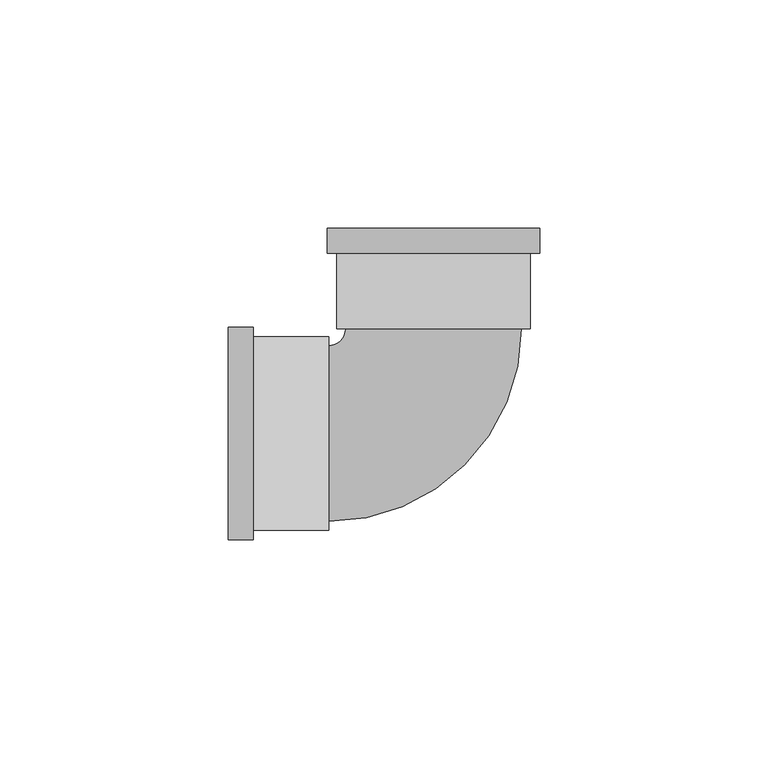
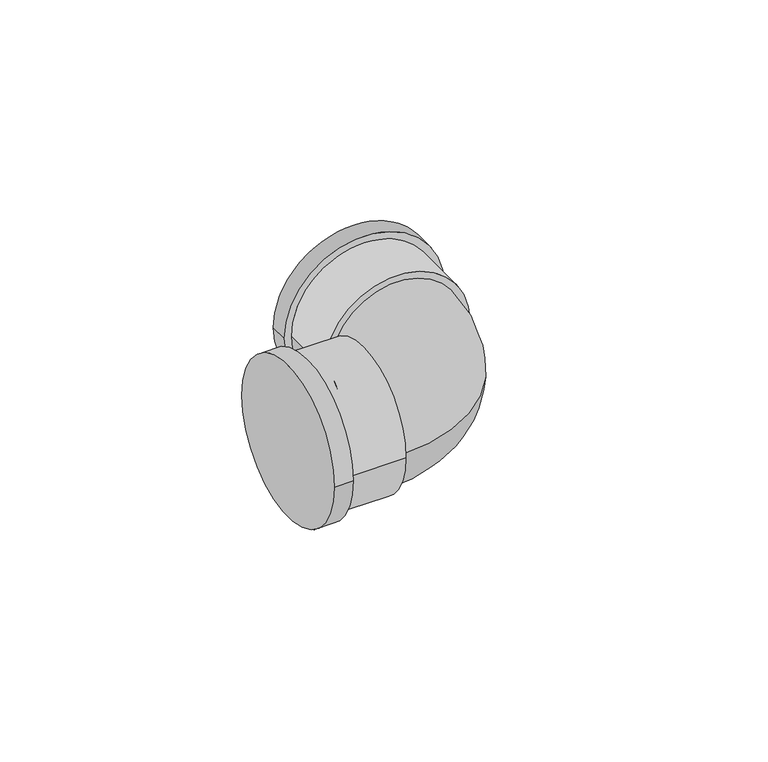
"""IFC4 building model written with IfcOpenShell, lengths in millimetres: pipe fitting geometry, Cotovelo - PVC - CW : Padrão."""

from ifc_helpers import new_model, si_unit, point, frame, origin, place, context, project, spatial, circle_curve, ellipse_curve, trimmed, source, transform, mapped, element, save
from ifc_brep_helpers import plane_surface, cylinder_surface, revolved_surface, advanced_brep


def pipe_fitting_a6c02e45(model_context):
    return source(origin(), model_context, "Body", "AdvancedBrep", [
        advanced_brep(
        [(-45.0010874, -23.2925, 0.0), (-45.0010874, 23.2925, 0.0), (-39.5010874, -23.2925, 0.0), (-39.5010874, 23.2925, 0.0), (-39.5010874, -21.175, 0.0), (-39.5010874, 21.175, 0.0), (-23.0010874, 21.175, 0.0), (-23.0010874, -21.175, 0.0), (-23.0010874, -19.25, 0.0), (-23.0010874, 19.25, 0.0), (-19.2510874, 23.0001773, 0.0), (19.2489125, 23.0019975, 0.0), (21.1739125, 23.0020885, 0.0), (-21.1760874, 23.0000863, 0.0), (-23.2946275, 44.9999861, 0.0), (23.2903724, 45.0021886, 0.0), (21.1731324, 39.5020885, 0.0), (-21.1768675, 39.5000863, 0.0), (-23.2943675, 39.4999862, 0.0), (23.2906324, 39.5021886, 0.0)],
        [
            (0, 1, circle_curve(frame((-45.0010874, 0.0, 0.0), z_axis=(-1.0, 0.0, 0.0), x_axis=(0.0, 1.0, 0.0)), 23.2925)),
            (1, 0, circle_curve(frame((-45.0010874, 0.0, 0.0), z_axis=(-1.0, 0.0, 0.0), x_axis=(0.0, 1.0, 0.0)), 23.2925)),
            (2, 3, circle_curve(frame((-39.5010874, 0.0, 0.0), z_axis=(1.0, 0.0, 0.0), x_axis=(0.0, 1.0, 0.0)), 23.2925)),
            (3, 2, circle_curve(frame((-39.5010874, 0.0, 0.0), z_axis=(1.0, 0.0, 0.0), x_axis=(0.0, 1.0, 0.0)), 23.2925)),
            (4, 5, circle_curve(frame((-39.5010874, 0.0, 0.0), z_axis=(-1.0, 0.0, 0.0), x_axis=(0.0, -1.0, 0.0)), 21.175)),
            (5, 4, circle_curve(frame((-39.5010874, 0.0, 0.0), z_axis=(-1.0, 0.0, 0.0), x_axis=(0.0, -1.0, 0.0)), 21.175)),
            (0, 2),
            (3, 1),
            (6, 7, circle_curve(frame((-23.0010874, 0.0, 0.0), z_axis=(1.0, 0.0, 0.0), x_axis=(0.0, -1.0, 0.0)), 21.175)),
            (7, 6, circle_curve(frame((-23.0010874, 0.0, 0.0), z_axis=(1.0, 0.0, 0.0), x_axis=(0.0, -1.0, 0.0)), 21.175)),
            (8, 9, circle_curve(frame((-23.0010874, 0.0, 0.0), z_axis=(-1.0, 0.0, 0.0), x_axis=(0.0, 1.0, 0.0)), 19.25)),
            (9, 8, circle_curve(frame((-23.0010874, 0.0, 0.0), z_axis=(-1.0, 0.0, 0.0), x_axis=(0.0, 1.0, 0.0)), 19.25)),
            (6, 5),
            (4, 7),
            (10, 9, circle_curve(frame((-23.0010874, 23.0, 0.0), z_axis=(0.0, 0.0, -1.0), x_axis=(0.0, -1.0, 0.0)), 3.75)),
            (8, 11, circle_curve(frame((-23.0010874, 23.0, 0.0), z_axis=(0.0, 0.0, 1.0), x_axis=(0.0, -1.0, 0.0)), 42.25)),
            (11, 10, circle_curve(frame((-0.0010874, 23.0010874, 0.0), z_axis=(4.7278073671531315e-05, -0.9999999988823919, 0.0), x_axis=(-0.9999999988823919, -4.7278073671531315e-05, 0.0)), 19.25)),
            (10, 11, circle_curve(frame((-0.0010874, 23.0010874, 0.0), z_axis=(4.7278073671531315e-05, -0.9999999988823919, 0.0), x_axis=(-0.9999999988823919, -4.7278073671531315e-05, 0.0)), 19.25)),
            (12, 13, circle_curve(frame((-0.0010874, 23.0010874, 0.0), z_axis=(4.7278074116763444e-05, -0.9999999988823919, 0.0), x_axis=(-0.9999999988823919, -4.7278074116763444e-05, 0.0)), 21.175)),
            (13, 12, circle_curve(frame((-0.0010874, 23.0010874, 0.0), z_axis=(4.7278074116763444e-05, -0.9999999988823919, 0.0), x_axis=(-0.9999999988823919, -4.7278074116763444e-05, 0.0)), 21.175)),
            (14, 15, circle_curve(frame((-0.0021276, 45.0010874, 0.0), z_axis=(-4.7278073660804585e-05, 0.9999999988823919, 0.0), x_axis=(0.9999999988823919, 4.7278073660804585e-05, 0.0)), 23.2925)),
            (15, 14, circle_curve(frame((-0.0021276, 45.0010874, 0.0), z_axis=(-4.7278073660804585e-05, 0.9999999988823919, 0.0), x_axis=(0.9999999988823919, 4.7278073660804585e-05, 0.0)), 23.2925)),
            (12, 16),
            (16, 17, circle_curve(frame((-0.0018675, 39.5010874, 0.0), z_axis=(4.7278074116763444e-05, -0.9999999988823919, 0.0), x_axis=(-0.9999999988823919, -4.7278074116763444e-05, 0.0)), 21.175)),
            (17, 13),
            (17, 16, circle_curve(frame((-0.0018675, 39.5010874, 0.0), z_axis=(4.7278074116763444e-05, -0.9999999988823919, 0.0), x_axis=(-0.9999999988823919, -4.7278074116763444e-05, 0.0)), 21.175)),
            (18, 19, circle_curve(frame((-0.0018675, 39.5010874, 0.0), z_axis=(4.7278073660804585e-05, -0.9999999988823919, 0.0), x_axis=(0.9999999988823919, 4.7278073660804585e-05, 0.0)), 23.2925)),
            (19, 18, circle_curve(frame((-0.0018675, 39.5010874, 0.0), z_axis=(4.7278073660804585e-05, -0.9999999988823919, 0.0), x_axis=(0.9999999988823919, 4.7278073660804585e-05, 0.0)), 23.2925)),
            (14, 18),
            (19, 15),
        ],
        [
            plane_surface(frame((-45.0010874, 0.0, 0.0), z_axis=(-1.0, 0.0, 0.0), x_axis=(0.0, 0.0, 1.0))),
            plane_surface(frame((-39.5010874, 0.0, 0.0), z_axis=(1.0, 0.0, 0.0), x_axis=(0.0, 0.0, 1.0))),
            cylinder_surface(frame((-45.0010874, 0.0, 0.0), z_axis=(-1.0, 0.0, 0.0), x_axis=(0.0, 1.0, 0.0)), 23.2925),
            plane_surface(frame((-23.0010874, 0.0, 0.0), z_axis=(1.0, 0.0, 0.0), x_axis=(0.0, 0.0, 1.0))),
            cylinder_surface(frame((-23.0010874, 0.0, 0.0), z_axis=(1.0, 0.0, 0.0), x_axis=(0.0, -1.0, 0.0)), 21.175),
            revolved_surface(trimmed(ellipse_curve(frame((-23.0010874, 0.0, 0.0), z_axis=(-1.0, 0.0, 0.0), x_axis=(0.0, 1.0, 0.0)), 19.25, 19.25), [point((-23.0010874, -19.25, 0.0))], [point((-23.0010874, 19.25, 0.0))], True, "CARTESIAN"), (-23.0010874, 23.0, 0.0), (0.0, 0.0, 1.0)),
            revolved_surface(trimmed(ellipse_curve(frame((-23.0010874, 0.0, 0.0), z_axis=(-1.0, 0.0, 0.0), x_axis=(0.0, 1.0, 0.0)), 19.25, 19.25), [point((-23.0010874, 19.25, 0.0))], [point((-23.0010874, -19.25, 0.0))], True, "CARTESIAN"), (-23.0010874, 23.0, 0.0), (0.0, 0.0, 1.0)),
            plane_surface(frame((-0.0010874, 23.0010874, 0.0), z_axis=(4.7278074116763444e-05, -0.9999999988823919, 0.0), x_axis=(0.0, 0.0, 1.0))),
            plane_surface(frame((-0.0021276, 45.0010874, 0.0), z_axis=(-4.7278074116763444e-05, 0.9999999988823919, 0.0), x_axis=(0.0, 0.0, 1.0))),
            cylinder_surface(frame((-0.0010874, 23.0010874, 0.0), z_axis=(4.7278074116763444e-05, -0.9999999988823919, 0.0), x_axis=(-0.9999999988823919, -4.7278074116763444e-05, 0.0)), 21.175),
            plane_surface(frame((-0.0018675, 39.5010874, 0.0), z_axis=(4.7278073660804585e-05, -0.9999999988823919, 0.0), x_axis=(0.0, 0.0, 1.0))),
            cylinder_surface(frame((-0.0021276, 45.0010874, 0.0), z_axis=(-4.7278073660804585e-05, 0.9999999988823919, 0.0), x_axis=(0.9999999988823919, 4.7278073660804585e-05, 0.0)), 23.2925),
        ],
        [
            (0, [[1, 2]]),
            (1, [[3, 4], [5, 6]]),
            (2, [[-1, 7, -4, 8]]),
            (2, [[-2, -8, -3, -7]]),
            (3, [[9, 10], [11, 12]]),
            (4, [[-9, 13, -5, 14]]),
            (4, [[-10, -14, -6, -13]]),
            (5, [[15, -11, 16, 17]]),
            (6, [[-15, 18, -16, -12]]),
            (7, [[19, 20], [-17, -18]]),
            (8, [[21, 22]]),
            (9, [[-19, 23, 24, 25]]),
            (9, [[-20, -25, 26, -23]]),
            (10, [[27, 28], [-24, -26]]),
            (11, [[-21, 29, -28, 30]]),
            (11, [[-22, -30, -27, -29]]),
        ],
    ),
    ])


if __name__ == "__main__":
    model = new_model("IFC4")
    model_context = context("Model", 3, world=origin())
    ifc_project = project(units=[si_unit("LENGTHUNIT", "METRE", prefix="MILLI")], contexts=[model_context])
    site = spatial("IfcSite", under=ifc_project)
    building = spatial("IfcBuilding", under=site)
    placement = place(None, origin())
    pipe_fitting_shape = pipe_fitting_a6c02e45(model_context)
    element("IfcPipeFitting", 1, ObjectType="Cotovelo - PVC - CW : Padrão", at=placement, inside=building, context=model_context, shape_type="MappedRepresentation", body=[
        mapped(pipe_fitting_shape, transform((0.0, 0.0, 0.0), x_axis=(1.0, 0.0, 0.0), y_axis=(0.0, 1.0, 0.0), z_axis=(0.0, 0.0, 1.0))),
    ])
    save(model, "model.ifc")
